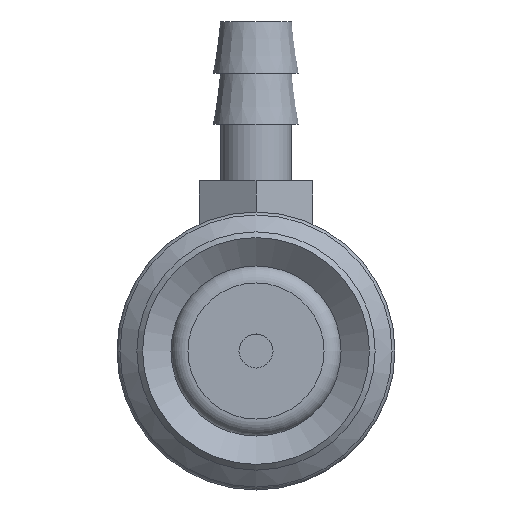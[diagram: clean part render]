
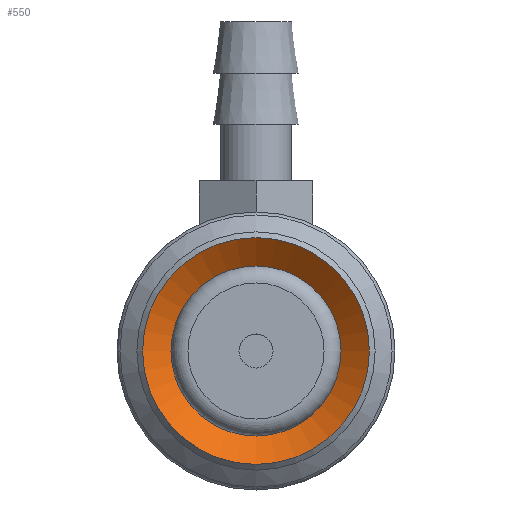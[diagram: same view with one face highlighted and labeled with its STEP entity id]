
A CAD part, front view. The second image highlights one B-rep face of the part: STEP entity #550.
In plain terms, the highlighted conical face has half-angle 52 degrees and reference radius 3 mm.
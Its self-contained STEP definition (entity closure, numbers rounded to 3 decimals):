
#550=ADVANCED_FACE('',(#808,#809),#810,.F.);
#808=FACE_BOUND('',#1117,.T.);
#809=FACE_OUTER_BOUND('',#1118,.T.);
#810=CONICAL_SURFACE('',#1119,3.0,0.908);
#1117=EDGE_LOOP('',(#1835));
#1118=EDGE_LOOP('',(#1836));
#1119=AXIS2_PLACEMENT_3D('',#1837,#1838,#1839);
#1835=ORIENTED_EDGE('',*,*,#2180,.F.);
#1836=ORIENTED_EDGE('',*,*,#2177,.T.);
#1837=CARTESIAN_POINT('',(0.0,7.741,0.));
#1838=DIRECTION('',(-0.0,-1.0,0.));
#1839=DIRECTION('',(0.0,0.,-1.0));
#2177=EDGE_CURVE('',#2510,#2510,#2511,.T.);
#2180=EDGE_CURVE('',#2516,#2516,#2517,.T.);
#2510=VERTEX_POINT('',#3252);
#2511=CIRCLE('',#3253,4.0);
#2516=VERTEX_POINT('',#3258);
#2517=CIRCLE('',#3259,3.0);
#3252=CARTESIAN_POINT('',(0.0,6.96,-4.0));
#3253=AXIS2_PLACEMENT_3D('',#3597,#3598,#3599);
#3258=CARTESIAN_POINT('',(0.0,7.741,-3.0));
#3259=AXIS2_PLACEMENT_3D('',#3606,#3607,#3608);
#3597=CARTESIAN_POINT('',(0.0,6.96,0.0));
#3598=DIRECTION('',(0.0,-1.0,0.));
#3599=DIRECTION('',(0.0,0.,-1.0));
#3606=CARTESIAN_POINT('',(0.0,7.741,0.));
#3607=DIRECTION('',(0.0,-1.0,0.));
#3608=DIRECTION('',(0.0,0.,-1.0));
